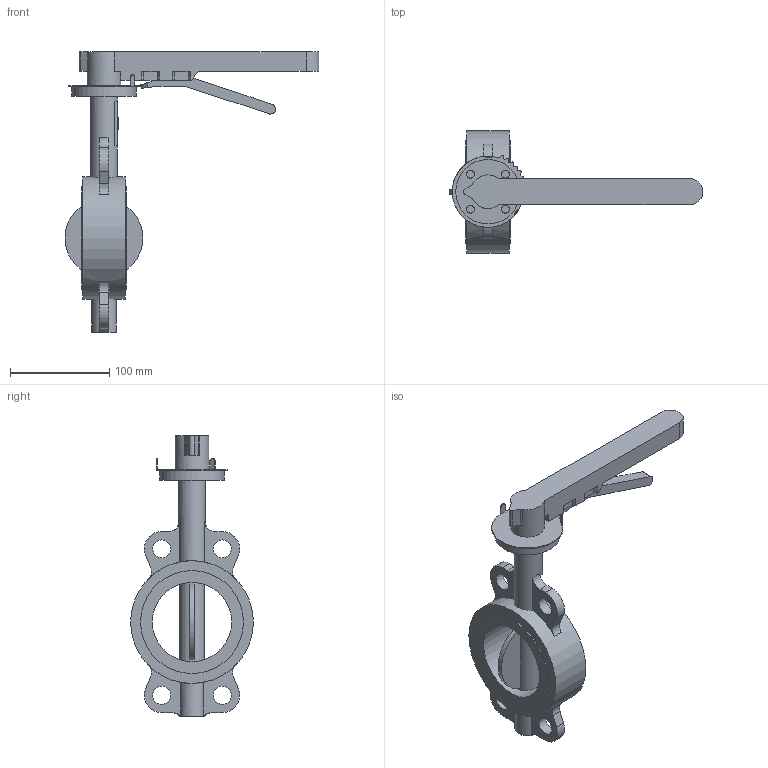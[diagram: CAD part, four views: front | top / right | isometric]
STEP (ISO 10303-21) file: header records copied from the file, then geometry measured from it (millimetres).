
FILE_DESCRIPTION(('STEP AP203'), '1');
FILE_NAME('Çàòâîð 017W.Y_DN80_ðóêîÿòü', '', ('UNSPECIFIED'), ('UNSPECIFIED'), 'ASCON STEP Converter 1.6', 'ASCON Math Kernel', '');
FILE_SCHEMA(('CONFIG_CONTROL_DESIGN'));
Length unit declared in the file: millimetre
Bounding box: 256.26 x 123.9 x 283 mm (x, y, z)
Volume: 663535.1 mm3; surface area: 113751.4 mm2
Topology: 1 solids, 1 shells, 188 faces, 498 edges, 329 vertices
Faces by surface type: plane 115, cylinder 69, torus 4
Full cylindrical faces by diameter (mm): 8 x4, 18 x4, 25 x1, 27 x1, 34 x1, 65 x1, 80 x1, 103.9 x2, 123.9 x1
Entity records: 8447 total; most frequent: CARTESIAN_POINT 2175, DIRECTION 987, ORIENTED_EDGE 964, EDGE_CURVE 482, AXIS2_PLACEMENT_3D 343, VERTEX_POINT 329, LINE 301, VECTOR 301
